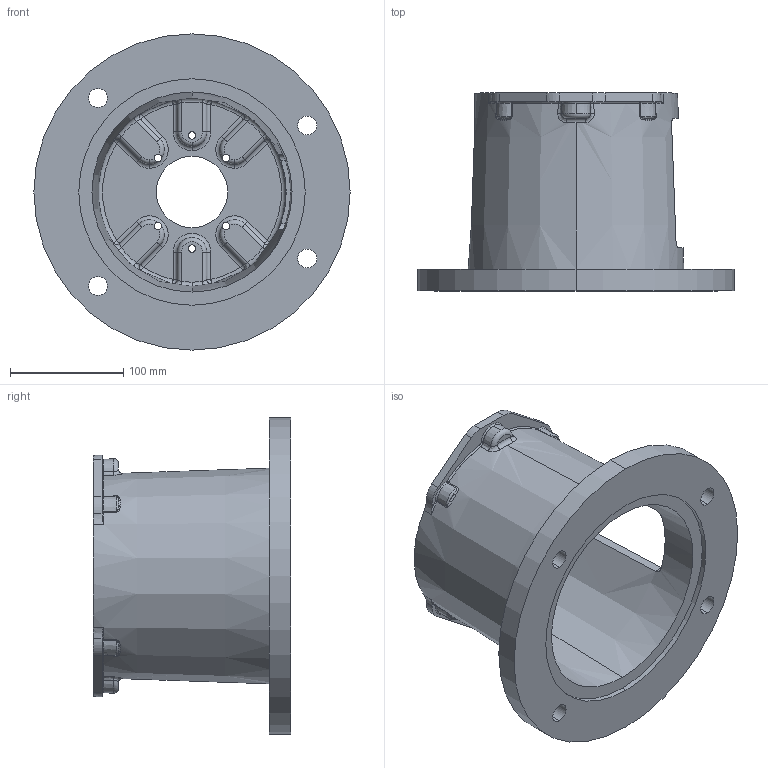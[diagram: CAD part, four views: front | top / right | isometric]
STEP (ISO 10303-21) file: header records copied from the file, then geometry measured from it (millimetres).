
FILE_DESCRIPTION (( 'STEP AP203' ), '1' );
FILE_NAME ('E7876863M.STEP', '2014-11-04T13:48:03', ( '' ), ( '' ), 'SwSTEP 2.0', 'SolidWorks 2014', '' );
FILE_SCHEMA (( 'CONFIG_CONTROL_DESIGN' ));
Length unit declared in the file: inch
Products named in the file (1): E7876863M
Bounding box: 279.4 x 174.75 x 279.4 mm (x, y, z)
Volume: 1510851.4 mm3; surface area: 312169.6 mm2
Topology: 1 solids, 1 shells, 344 faces, 878 edges, 523 vertices
Faces by surface type: torus 103, cylinder 86, bspline 64, plane 45, sphere 24, cone 22
Entity records: 13945 total; most frequent: CARTESIAN_POINT 5900, ORIENTED_EDGE 1732, DIRECTION 1702, EDGE_CURVE 866, AXIS2_PLACEMENT_3D 771, VERTEX_POINT 523, CIRCLE 490, EDGE_LOOP 367
